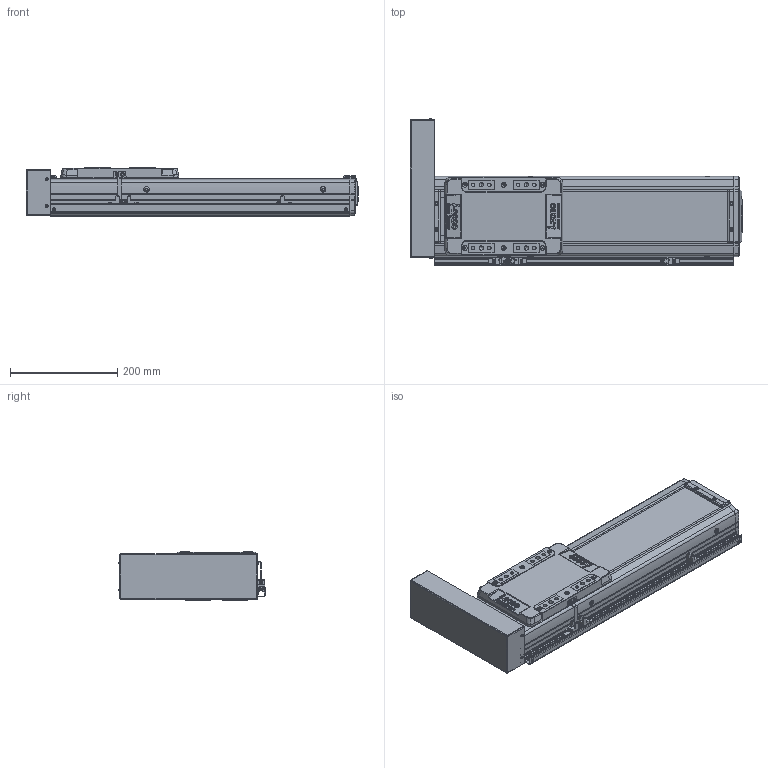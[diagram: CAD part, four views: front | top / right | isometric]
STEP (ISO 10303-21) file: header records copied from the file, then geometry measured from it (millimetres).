
FILE_DESCRIPTION(('STEP AP214'),'1');
FILE_NAME('Z:/Web/3D/SAN150/2013.04 (STP.)/SAN150ㅁㅁ-300PL+3SR.stp','2013-05-08T02:13:03',(' '),(' '),'Spatial InterOp 3D',' ',' ');
FILE_SCHEMA(('automotive_design'));
Length unit declared in the file: millimetre
Products named in the file (58): SLBL-SAN150; SLCV-SAN150; FHCS M4.0 x 8.0; BHCS M4.0 x 10.0; SFX-SAN150; RRCV-SAN150; FRBL-SAN150; Spacer; RN15; FRCV-SAN150; Screw 20; BASE-SAN150-000L ; SUS COVER; 스크루 : Round - M5.0 x 6.0; BHCS M3.0 x 6.0; P; M3.0 x 6.0; SRL-16x17-360L; SGD-SAN150; EE-SX674; SBK-SX674-352; 스크루 : Round - M3.0 x 6.0
Bounding box: 620 x 273.36 x 90 mm (x, y, z)
Volume: 4667714.6 mm3; surface area: 843922.1 mm2
Topology: 58 solids, 58 shells, 2590 faces, 6655 edges, 4280 vertices
Faces by surface type: plane 1388, cylinder 831, cone 258, sphere 80, bspline 21, torus 12
Entity records: 102234 total; most frequent: CARTESIAN_POINT 15981, DIRECTION 14080, ORIENTED_EDGE 13094, EDGE_CURVE 6547, AXIS2_PLACEMENT_3D 4982, VERTEX_POINT 4280, LINE 4116, VECTOR 4116
